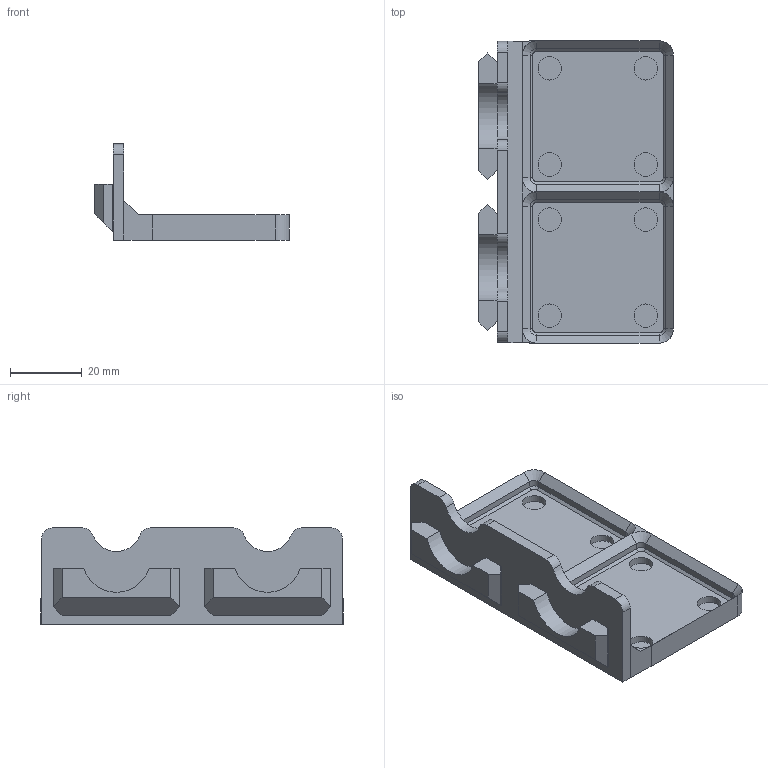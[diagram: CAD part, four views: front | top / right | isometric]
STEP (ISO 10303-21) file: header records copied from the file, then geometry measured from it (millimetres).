
FILE_DESCRIPTION(/* description */ ('','CAx-IF Rec.Pracs.---Representation and Presentation of Product Manufacturing Information (PMI)---4.0---2014-10-13'),/* implementation_level */ '2;1');
FILE_NAME(/* name */ 'Goews Double Hanger Gridfinity with Magnets 1x2 Base v6.step',/* time_stamp */ '2024-12-07T22:42:40-05:00',/* author */ (''),/* organization */ (''),/* preprocessor_version */ 'ST-DEVELOPER v20',/* originating_system */ 'Autodesk Translation Framework v13.20.0.188',/* authorisation */ '');
FILE_SCHEMA (('AP242_MANAGED_MODEL_BASED_3D_ENGINEERING_MIM_LF { 1 0 10303 442 1 1 4 }'));
Length unit declared in the file: millimetre
Products named in the file (1): Goews Double Hanger Gridfinity  with Magnets  1x2 Base
Bounding box: 54.15 x 84 x 26.72 mm (x, y, z)
Volume: 22261 mm3; surface area: 15104.3 mm2
Topology: 1 solids, 1 shells, 126 faces, 282 edges, 168 vertices
Faces by surface type: plane 76, cylinder 34, cone 16
Full cylindrical faces by diameter (mm): 6.5 x8
Entity records: 3457 total; most frequent: DIRECTION 614, CARTESIAN_POINT 577, ORIENTED_EDGE 564, EDGE_CURVE 282, AXIS2_PLACEMENT_3D 205, LINE 204, VECTOR 204, VERTEX_POINT 168
